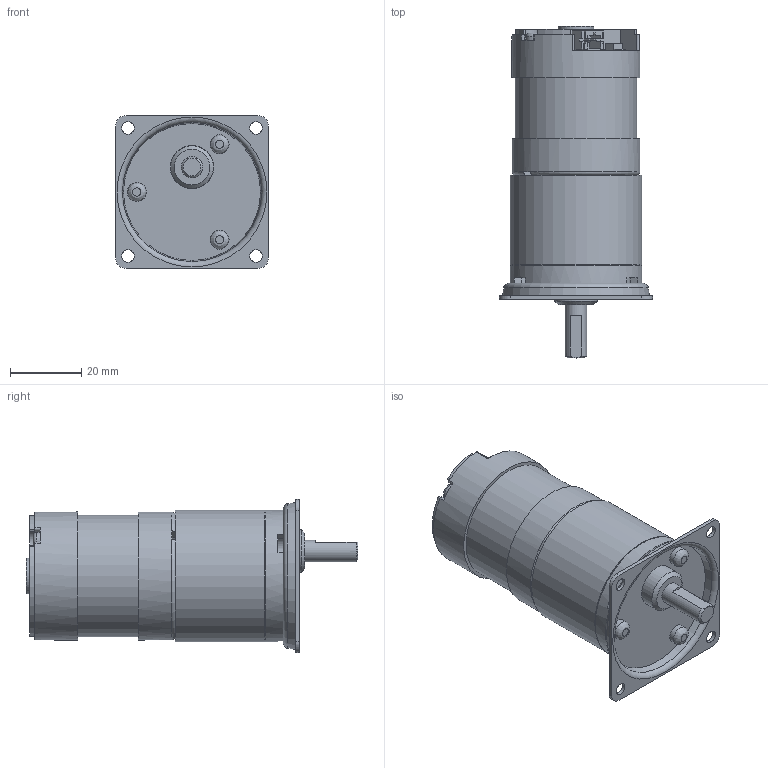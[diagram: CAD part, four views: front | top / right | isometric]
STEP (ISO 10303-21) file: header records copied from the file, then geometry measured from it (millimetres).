
FILE_DESCRIPTION((''),'2;1');
FILE_NAME('\\Servert1600\threepeace\2015homepage\STP\HP-Data_GM_3D_STEP\TP-3641AA,BA,CA,DA,EA(ドライバ内蔵)-PJ-360～900-P00-12,24.stp','2016-11-11T13:12:01',('Administrator'),(''),'Autodesk Inventor 2010','Autodesk Inventor 2010','');
FILE_SCHEMA(('AUTOMOTIVE_DESIGN { 1 0 10303 214 1 1 1 1 }'));
Length unit declared in the file: millimetre
Products named in the file (7): TP-3641AA,BA,CA,DA,EA(ドライバ内蔵)-PJ-360～900-P00-12,24; KJ-6; □43; TP-3641AA,BA,CA-24; TP-3641BA,l; S2B-PH-SM4-TB; SMD-TRIMMERS
Assembly tree (6 placements, depth 3):
  TP-3641AA,BA,CA,DA,EA(ドライバ内蔵)-PJ-360～900-P00-12,24
    KJ-6
    □43
    TP-3641AA,BA,CA-24
      TP-3641BA,l
      S2B-PH-SM4-TB
      SMD-TRIMMERS
Bounding box: 43 x 93.3 x 43 mm (x, y, z)
Volume: 73859.3 mm3; surface area: 18784.7 mm2
Topology: 6 solids, 6 shells, 272 faces, 708 edges, 468 vertices
Faces by surface type: plane 163, cylinder 54, bspline 44, torus 6, cone 5
Full cylindrical faces by diameter (mm): 1.9 x1, 2.5 x2, 5 x1, 5.3 x3, 6 x1, 10 x2, 12 x1, 12.2 x1, 34.1 x1, 36 x2, 36.6 x1, 37 x2
Entity records: 8673 total; most frequent: CARTESIAN_POINT 2188, DIRECTION 1259, ORIENTED_EDGE 1192, EDGE_CURVE 596, AXIS2_PLACEMENT_3D 428, VERTEX_POINT 425, VECTOR 403, LINE 403
